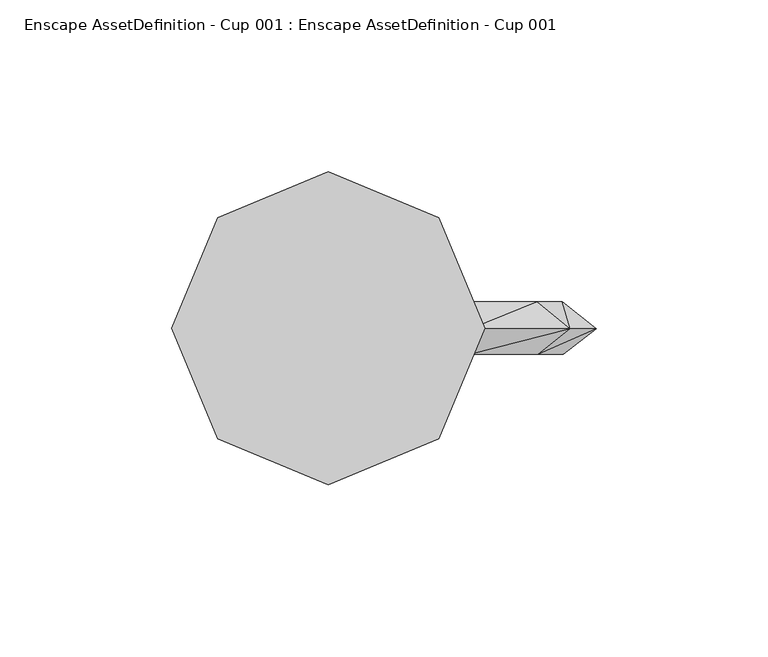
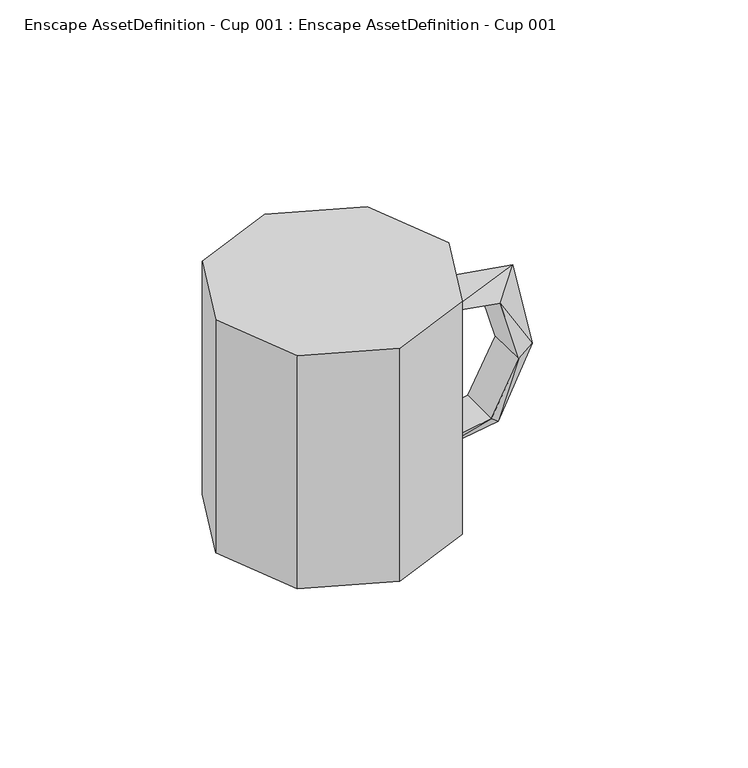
"""IFC4 building model written with IfcOpenShell, lengths in millimetres: geographic element geometry, Enscape AssetDefinition - Cup 001 : Enscape AssetDefinition - Cup 001."""

from ifc_helpers import new_model, si_unit, origin, place, context, project, spatial, triangles, source, transform, mapped, element, save


def enscape_assetdefinition_cup_001_enscape_assetdefinition_cup_e3f5b286(model_context):
    return source(origin(), model_context, "Body", "Tessellation", [
        triangles([(0.0, -45.4642534, 0.0), (32.1474268, -32.1474268, 95.9636919), (-32.1474268, -32.1474268, 0.0), (0.0, -45.4642534, 95.9636919), (45.4642534, 0.0, 95.9636919), (32.1474268, -32.1474268, 0.0), (32.1474268, 32.1474268, 95.9636919), (0.0, 45.4642534, 95.9636919), (-32.1474268, 32.1474268, 95.9636919), (45.4642534, 0.0, 0.0), (32.1474268, 32.1474268, 0.0), (0.0, 45.4642534, 0.0), (-45.4642534, 0.0, 95.9636919), (-32.1474268, 32.1474268, 0.0), (-45.4642534, 0.0, 0.0), (-32.1474268, -32.1474268, 95.9636919), (60.7542676, 7.7641586, 69.6411298), (41.1469525, 7.7641586, 73.1687488), (68.3459327, -7.5208743, 44.6725821), (41.3503557, -0.1555424, 82.9330193), (41.2177421, -7.5208743, 73.6084567), (70.3261125, -0.1555424, 78.1750157), (77.8170706, -0.1555424, 43.3225464), (67.9491001, 7.7641586, 44.7194406), (61.0713404, -7.5208743, 70.0249954), (64.6777291, -0.1555424, 15.7556494), (57.2605447, 7.7641586, 24.15793), (57.5187865, -7.5208743, 23.7591035), (41.3513504, -0.1555424, 12.1422787), (41.1668913, 7.7641586, 21.4738278), (41.2356916, -7.5208743, 21.033123)], [[30, 29, 31], [27, 30, 31], [28, 31, 29], [31, 28, 27], [29, 26, 28], [26, 29, 30], [30, 27, 26], [23, 26, 27], [24, 27, 28], [27, 24, 23], [19, 28, 26], [26, 23, 19], [28, 19, 24], [25, 19, 23], [23, 22, 25], [22, 23, 24], [21, 25, 22], [22, 20, 21], [21, 20, 18], [25, 21, 18], [19, 25, 17], [17, 24, 19], [24, 17, 22], [18, 17, 25], [20, 22, 17], [17, 18, 20], [16, 13, 15], [14, 15, 13], [13, 9, 14], [12, 14, 9], [15, 12, 10], [15, 14, 12], [12, 11, 10], [10, 11, 7], [8, 9, 13], [9, 8, 12], [8, 7, 11], [11, 12, 8], [5, 7, 8], [7, 5, 10], [6, 10, 5], [5, 2, 6], [2, 5, 4], [5, 8, 4], [8, 13, 4], [13, 16, 4], [4, 16, 3], [15, 3, 16], [2, 4, 1], [1, 6, 2], [3, 1, 4], [6, 1, 10], [1, 15, 10], [1, 3, 15]]),
    ])


if __name__ == "__main__":
    model = new_model("IFC4")
    model_context = context("Model", 3, world=origin())
    ifc_project = project(units=[si_unit("LENGTHUNIT", "METRE", prefix="MILLI")], contexts=[model_context])
    site = spatial("IfcSite", under=ifc_project)
    building = spatial("IfcBuilding", under=site)
    placement = place(None, origin())
    enscape_assetdefinition_cup_001_enscape_assetdefinition_cup_shape = enscape_assetdefinition_cup_001_enscape_assetdefinition_cup_e3f5b286(model_context)
    element("IfcGeographicElement", 1, ObjectType="Enscape AssetDefinition - Cup 001 : Enscape AssetDefinition - Cup 001", at=placement, inside=building, context=model_context, shape_type="MappedRepresentation", body=[
        mapped(enscape_assetdefinition_cup_001_enscape_assetdefinition_cup_shape, transform((0.0, 0.0, 0.0), x_axis=(1.0, 0.0, 0.0), y_axis=(0.0, 1.0, 0.0), z_axis=(0.0, 0.0, 1.0))),
    ])
    save(model, "model.ifc")
